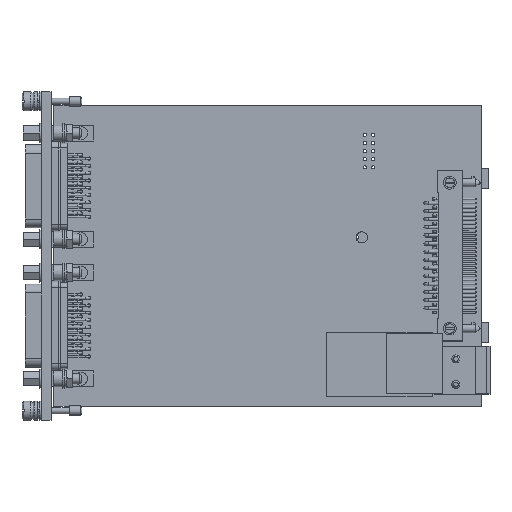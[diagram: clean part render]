
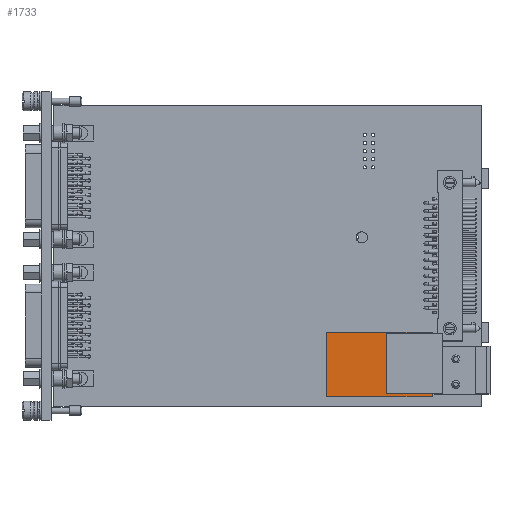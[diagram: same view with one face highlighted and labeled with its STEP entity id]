
A CAD part, top view. The second image highlights one B-rep face of the part: STEP entity #1733.
In plain terms, the highlighted planar face has unit normal (0, 0, 1).
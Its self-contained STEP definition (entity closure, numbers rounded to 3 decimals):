
#1733=ADVANCED_FACE('',(#23902),#23904,.F.);
#23902=FACE_BOUND('',#23903,.T.);
#23903=EDGE_LOOP('',(#43039,#43040,#43041,#43042,#43043,#43044,#43045,#43046));
#23904=PLANE('',#23905);
#23905=AXIS2_PLACEMENT_3D('',#23906,#23907,#23908);
#23906=CARTESIAN_POINT('',(118.54,23.29,10.7));
#23907=DIRECTION('',(0.,0.,-1.));
#23908=DIRECTION('',(-1.,0.,0.));
#43039=ORIENTED_EDGE('',*,*,#53353,.T.);
#43040=ORIENTED_EDGE('',*,*,#53804,.T.);
#43041=ORIENTED_EDGE('',*,*,#53806,.T.);
#43042=ORIENTED_EDGE('',*,*,#53785,.T.);
#43043=ORIENTED_EDGE('',*,*,#53781,.T.);
#43044=ORIENTED_EDGE('',*,*,#53790,.T.);
#43045=ORIENTED_EDGE('',*,*,#53788,.T.);
#43046=ORIENTED_EDGE('',*,*,#53783,.T.);
#53353=EDGE_CURVE('',#59220,#59218,#59221,.T.);
#53781=EDGE_CURVE('',#59948,#59946,#59949,.T.);
#53783=EDGE_CURVE('',#59951,#59220,#59952,.T.);
#53785=EDGE_CURVE('',#59954,#59948,#59955,.T.);
#53788=EDGE_CURVE('',#59959,#59951,#59960,.T.);
#53790=EDGE_CURVE('',#59946,#59959,#59962,.T.);
#53804=EDGE_CURVE('',#59218,#59982,#59983,.F.);
#53806=EDGE_CURVE('',#59982,#59954,#59985,.F.);
#59218=VERTEX_POINT('',#69729);
#59220=VERTEX_POINT('',#69733);
#59221=LINE('',#69734,#69735);
#59946=VERTEX_POINT('',#71590);
#59948=VERTEX_POINT('',#71594);
#59949=LINE('',#71595,#71596);
#59951=VERTEX_POINT('',#71601);
#59952=LINE('',#71602,#71603);
#59954=VERTEX_POINT('',#71608);
#59955=LINE('',#71609,#71610);
#59959=VERTEX_POINT('',#71619);
#59960=LINE('',#71620,#71621);
#59962=LINE('',#71626,#71627);
#59982=VERTEX_POINT('',#71677);
#59983=LINE('',#71678,#71679);
#59985=LINE('',#71684,#71685);
#69729=CARTESIAN_POINT('',(104.1,3.875,10.7));
#69733=CARTESIAN_POINT('',(118.54,3.875,10.7));
#69734=CARTESIAN_POINT('',(118.54,3.875,10.7));
#69735=VECTOR('',#69736,1.);
#69736=DIRECTION('',(-1.,0.,0.));
#71590=CARTESIAN_POINT('',(85.52,23.29,10.7));
#71594=CARTESIAN_POINT('',(118.54,23.29,10.7));
#71595=CARTESIAN_POINT('',(118.54,23.29,10.7));
#71596=VECTOR('',#71597,1.);
#71597=DIRECTION('',(-1.,0.,0.));
#71601=CARTESIAN_POINT('',(118.54,2.97,10.7));
#71602=CARTESIAN_POINT('',(118.54,2.97,10.7));
#71603=VECTOR('',#71604,1.);
#71604=DIRECTION('',(0.,1.,0.));
#71608=CARTESIAN_POINT('',(118.54,22.875,10.7));
#71609=CARTESIAN_POINT('',(118.54,22.875,10.7));
#71610=VECTOR('',#71611,1.);
#71611=DIRECTION('',(0.,1.,0.));
#71619=CARTESIAN_POINT('',(85.52,2.97,10.7));
#71620=CARTESIAN_POINT('',(85.52,2.97,10.7));
#71621=VECTOR('',#71622,1.);
#71622=DIRECTION('',(1.,0.,0.));
#71626=CARTESIAN_POINT('',(85.52,23.29,10.7));
#71627=VECTOR('',#71628,1.);
#71628=DIRECTION('',(0.,-1.,0.));
#71677=CARTESIAN_POINT('',(104.1,22.875,10.7));
#71678=CARTESIAN_POINT('',(104.1,22.875,10.7));
#71679=VECTOR('',#71680,1.);
#71680=DIRECTION('',(0.,-1.,0.));
#71684=CARTESIAN_POINT('',(118.54,22.875,10.7));
#71685=VECTOR('',#71686,1.);
#71686=DIRECTION('',(-1.,0.,0.));
